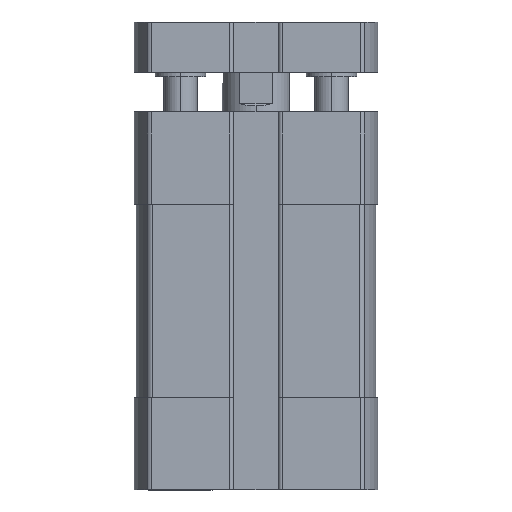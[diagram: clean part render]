
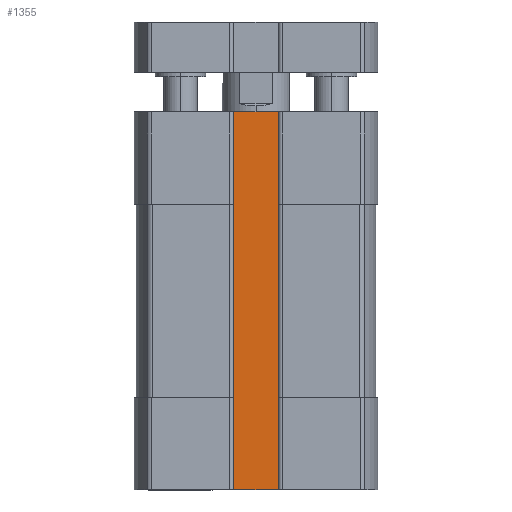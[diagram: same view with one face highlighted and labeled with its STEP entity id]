
A CAD part, front view. The second image highlights one B-rep face of the part: STEP entity #1355.
In plain terms, the highlighted planar face has unit normal (0, -1, 0) as drawn and (-1, 0, 0) by its records, which use the part's own axes.
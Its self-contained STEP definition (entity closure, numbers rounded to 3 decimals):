
#551 = VECTOR ( 'NONE', #12189, 1000. ) ;
#1010 = DIRECTION ( 'NONE',  ( 0., 0., 1. ) ) ;
#1200 = CARTESIAN_POINT ( 'NONE',  ( -9.3, -3.1, 0. ) ) ;
#1355 = ADVANCED_FACE ( 'NONE', ( #16678 ), #8931, .T. ) ;
#1570 = CARTESIAN_POINT ( 'NONE',  ( -9.3, 3., -45. ) ) ;
#1736 = EDGE_LOOP ( 'NONE', ( #14667, #12930, #4448, #10159 ) ) ;
#2481 = AXIS2_PLACEMENT_3D ( 'NONE', #16506, #12729, #1010 ) ;
#3246 = DIRECTION ( 'NONE',  ( 0., 0., 1. ) ) ;
#3511 = LINE ( 'NONE', #1570, #10164 ) ;
#4448 = ORIENTED_EDGE ( 'NONE', *, *, #15537, .F. ) ;
#4828 = VECTOR ( 'NONE', #13153, 1000. ) ;
#5230 = VERTEX_POINT ( 'NONE', #9569 ) ;
#5722 = EDGE_CURVE ( 'NONE', #5230, #16811, #3511, .T. ) ;
#6860 = CARTESIAN_POINT ( 'NONE',  ( -9.3, 3., -45. ) ) ;
#7578 = LINE ( 'NONE', #6860, #551 ) ;
#7939 = VECTOR ( 'NONE', #3246, 1000. ) ;
#8003 = VERTEX_POINT ( 'NONE', #10866 ) ;
#8331 = LINE ( 'NONE', #1200, #4828 ) ;
#8931 = PLANE ( 'NONE',  #2481 ) ;
#9442 = CARTESIAN_POINT ( 'NONE',  ( -9.3, -3., 0. ) ) ;
#9451 = EDGE_CURVE ( 'NONE', #8003, #14211, #12299, .T. ) ;
#9569 = CARTESIAN_POINT ( 'NONE',  ( -9.3, 3., 0. ) ) ;
#10159 = ORIENTED_EDGE ( 'NONE', *, *, #5722, .T. ) ;
#10164 = VECTOR ( 'NONE', #16180, 1000. ) ;
#10866 = CARTESIAN_POINT ( 'NONE',  ( -9.3, -3., -45. ) ) ;
#11184 = CARTESIAN_POINT ( 'NONE',  ( -9.3, -3., -45. ) ) ;
#12189 = DIRECTION ( 'NONE',  ( 0., -1., 0. ) ) ;
#12299 = LINE ( 'NONE', #11184, #7939 ) ;
#12729 = DIRECTION ( 'NONE',  ( -1., 0., 0. ) ) ;
#12930 = ORIENTED_EDGE ( 'NONE', *, *, #9451, .T. ) ;
#13153 = DIRECTION ( 'NONE',  ( 0., -1., 0. ) ) ;
#13612 = EDGE_CURVE ( 'NONE', #16811, #8003, #7578, .T. ) ;
#14211 = VERTEX_POINT ( 'NONE', #9442 ) ;
#14667 = ORIENTED_EDGE ( 'NONE', *, *, #13612, .T. ) ;
#15537 = EDGE_CURVE ( 'NONE', #5230, #14211, #8331, .T. ) ;
#16180 = DIRECTION ( 'NONE',  ( 0., 0., -1. ) ) ;
#16506 = CARTESIAN_POINT ( 'NONE',  ( -9.3, 3., -45. ) ) ;
#16678 = FACE_OUTER_BOUND ( 'NONE', #1736, .T. ) ;
#16811 = VERTEX_POINT ( 'NONE', #17018 ) ;
#17018 = CARTESIAN_POINT ( 'NONE',  ( -9.3, 3., -45. ) ) ;
